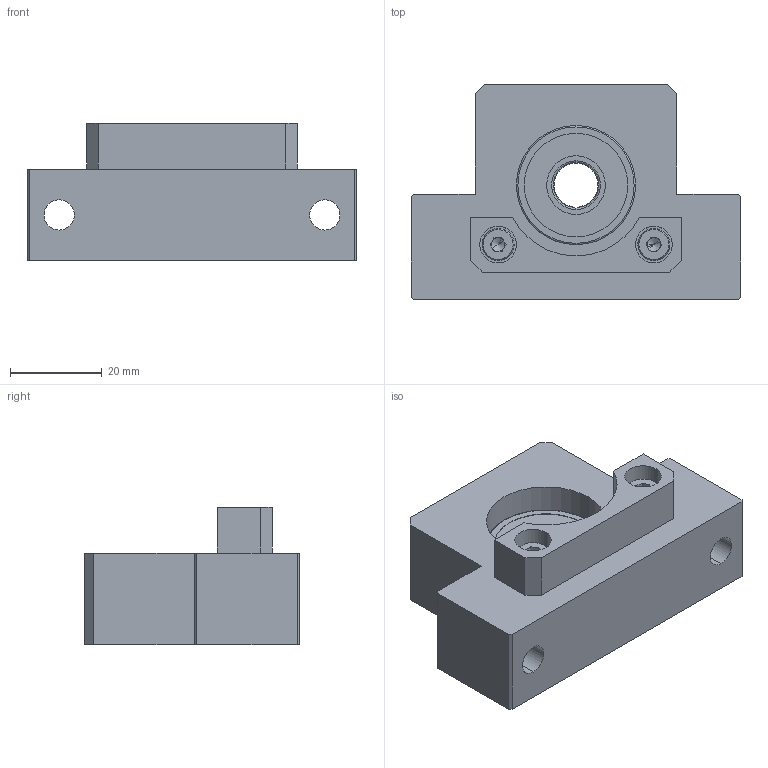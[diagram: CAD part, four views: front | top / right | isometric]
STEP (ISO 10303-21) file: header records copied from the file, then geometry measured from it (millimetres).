
FILE_DESCRIPTION (( 'STEP AP214' ), '1' );
FILE_NAME ('F-SBU-12.40.4-D.STEP', '2023-04-10T08:19:40', ( '' ), ( '' ), 'SwSTEP 2.0', 'SolidWorks 2021', '' );
FILE_SCHEMA (( 'AUTOMOTIVE_DESIGN' ));
Length unit declared in the file: millimetre
Products named in the file (11): 6000ZZ Outer ring; 6000ZZ Shield2; 6000ZZ; 4-10; F-SBU-12.40.4-D; 6000ZZ Shield1; 6000ZZ Inner ring; F-SBU-12.40.4-D BODY; F-SBU-12-DAMPER; 6000ZZ Ball; STWN10
Assembly tree (23 placements, depth 3):
  F-SBU-12.40.4-D
    F-SBU-12.40.4-D BODY
    STWN10
    6000ZZ
      6000ZZ Shield2
      6000ZZ Ball  x13
      6000ZZ Inner ring
      6000ZZ Shield1
      6000ZZ Outer ring
    F-SBU-12-DAMPER
    4-10  x2
Bounding box: 72 x 47 x 30 mm (x, y, z)
Volume: 47820.1 mm3; surface area: 19019.5 mm2
Topology: 22 solids, 22 shells, 207 faces, 506 edges, 321 vertices
Faces by surface type: plane 77, cylinder 66, sphere 26, cone 20, torus 18
Entity records: 5033 total; most frequent: DIRECTION 887, CARTESIAN_POINT 761, ORIENTED_EDGE 706, EDGE_CURVE 353, AXIS2_PLACEMENT_3D 351, VERTEX_POINT 225, EDGE_LOOP 188, LINE 185
